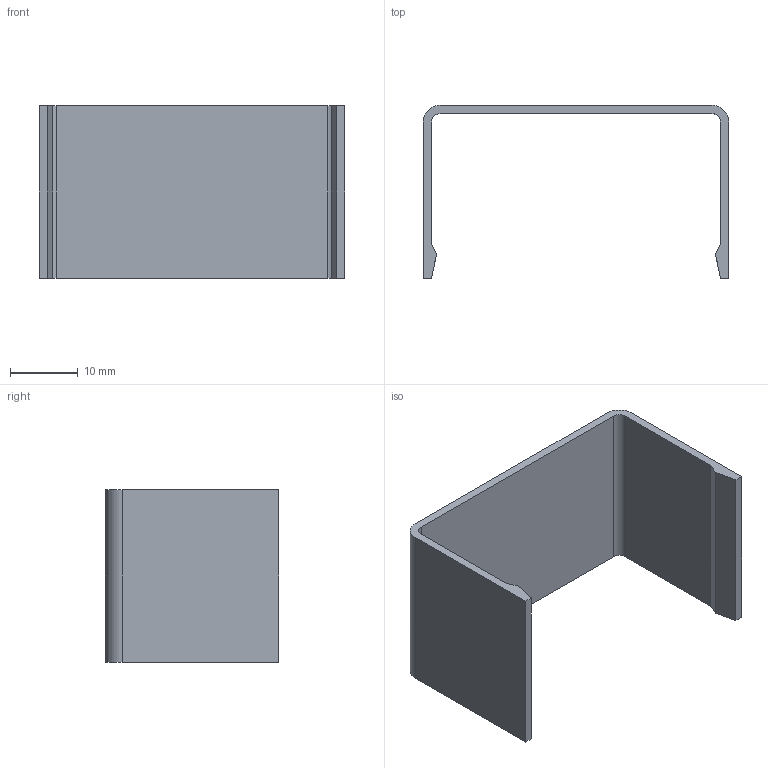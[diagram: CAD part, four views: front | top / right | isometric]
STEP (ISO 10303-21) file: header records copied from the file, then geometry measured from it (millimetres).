
FILE_DESCRIPTION((''),'2;1');
FILE_NAME('C:\Documents and Settings\Administrator\My Documents\Andys Backup Data\STEP LIBRARIES\MINITEC STEP LIBRARIES\ELECTRICAL INSTALLATION\20.1071 CONDUIT 45 AL.stp','2008-10-23T07:32:23',('Administrator'),(''),'Autodesk Inventor 2009','Autodesk Inventor 2009','');
FILE_SCHEMA(('AUTOMOTIVE_DESIGN { 1 0 10303 214 1 1 1 1 }'));
Length unit declared in the file: inch
Products named in the file (1): 20.1071 CONDUIT 45 AL
Bounding box: 45 x 25.5 x 25.4 mm (x, y, z)
Volume: 2902.3 mm3; surface area: 4973.6 mm2
Topology: 1 solids, 1 shells, 18 faces, 48 edges, 32 vertices
Faces by surface type: plane 14, cylinder 4
Entity records: 588 total; most frequent: CARTESIAN_POINT 99, ORIENTED_EDGE 96, DIRECTION 94, EDGE_CURVE 48, VECTOR 40, LINE 40, VERTEX_POINT 32, AXIS2_PLACEMENT_3D 27
